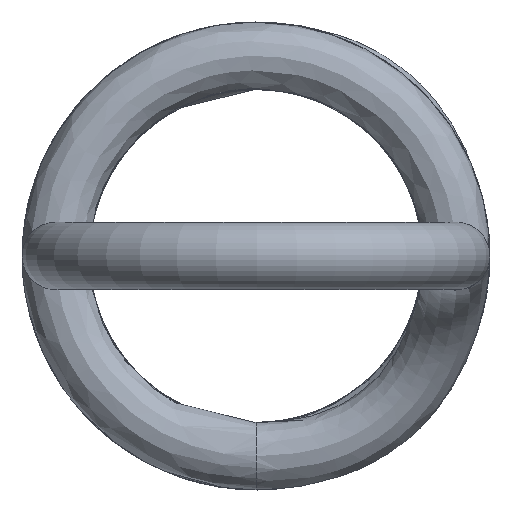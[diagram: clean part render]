
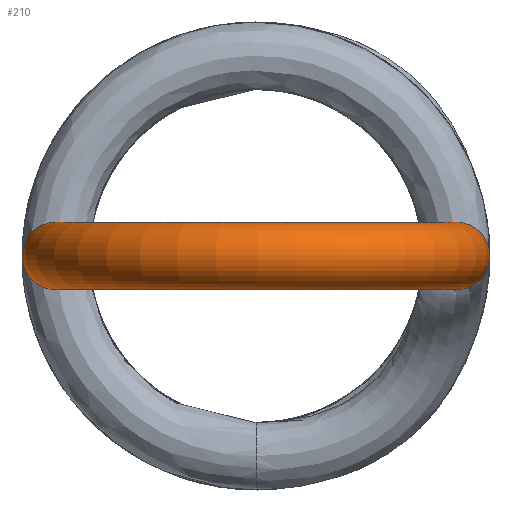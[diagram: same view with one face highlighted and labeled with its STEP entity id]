
A CAD part, front view. The second image highlights one B-rep face of the part: STEP entity #210.
In plain terms, the highlighted toroidal (fillet/blend) face has major radius 10.7 mm and minor radius 1.8 mm.
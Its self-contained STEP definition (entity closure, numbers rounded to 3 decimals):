
#15=TOROIDAL_SURFACE('',#248,10.7,1.8);
#22=CIRCLE('',#244,1.8);
#23=CIRCLE('',#245,1.8);
#24=CIRCLE('',#247,1.8);
#25=CIRCLE('',#249,8.9);
#40=FACE_OUTER_BOUND('',#51,.T.);
#51=EDGE_LOOP('',(#150,#151,#152,#153,#154));
#87=VERTEX_POINT('',#820);
#88=VERTEX_POINT('',#831);
#91=VERTEX_POINT('',#892);
#110=EDGE_CURVE('',#88,#87,#22,.T.);
#111=EDGE_CURVE('',#87,#88,#23,.T.);
#114=EDGE_CURVE('',#91,#91,#24,.T.);
#115=EDGE_CURVE('',#91,#88,#25,.T.);
#150=ORIENTED_EDGE('',*,*,#114,.F.);
#151=ORIENTED_EDGE('',*,*,#115,.T.);
#152=ORIENTED_EDGE('',*,*,#110,.T.);
#153=ORIENTED_EDGE('',*,*,#111,.T.);
#154=ORIENTED_EDGE('',*,*,#115,.F.);
#210=ADVANCED_FACE('',(#40),#15,.T.);
#244=AXIS2_PLACEMENT_3D('',#832,#270,#271);
#245=AXIS2_PLACEMENT_3D('',#833,#272,#273);
#247=AXIS2_PLACEMENT_3D('',#893,#276,#277);
#248=AXIS2_PLACEMENT_3D('',#894,#278,#279);
#249=AXIS2_PLACEMENT_3D('',#895,#280,#281);
#270=DIRECTION('center_axis',(0.,-1.,0.));
#271=DIRECTION('ref_axis',(-0.441,0.,-0.897));
#272=DIRECTION('center_axis',(0.,-1.,0.));
#273=DIRECTION('ref_axis',(-0.441,0.,-0.897));
#276=DIRECTION('center_axis',(0.168,0.986,0.));
#277=DIRECTION('ref_axis',(0.435,-0.074,-0.897));
#278=DIRECTION('center_axis',(0.,0.,-1.));
#279=DIRECTION('ref_axis',(-0.084,-0.996,0.));
#280=DIRECTION('center_axis',(0.,0.,1.));
#281=DIRECTION('ref_axis',(-0.084,-0.996,0.));
#820=CARTESIAN_POINT('',(9.906,-93.5,-1.615));
#831=CARTESIAN_POINT('',(8.9,-93.5,0.));
#832=CARTESIAN_POINT('Origin',(10.7,-93.5,0.));
#833=CARTESIAN_POINT('Origin',(10.7,-93.5,0.));
#892=CARTESIAN_POINT('',(-8.774,-92.008,0.));
#893=CARTESIAN_POINT('Origin',(-10.549,-91.706,0.));
#894=CARTESIAN_POINT('Origin',(0.,-93.5,0.));
#895=CARTESIAN_POINT('Origin',(0.,-93.5,0.));
